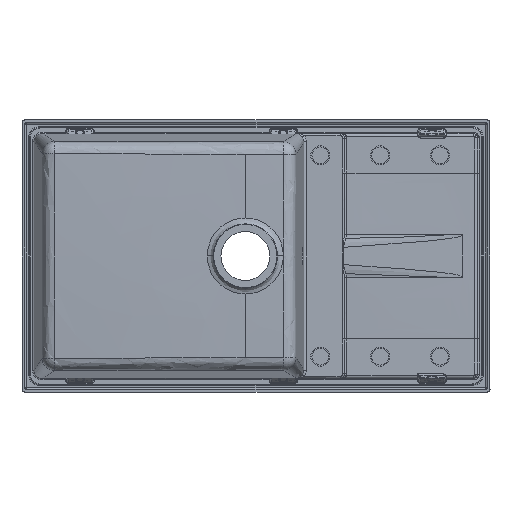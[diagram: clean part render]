
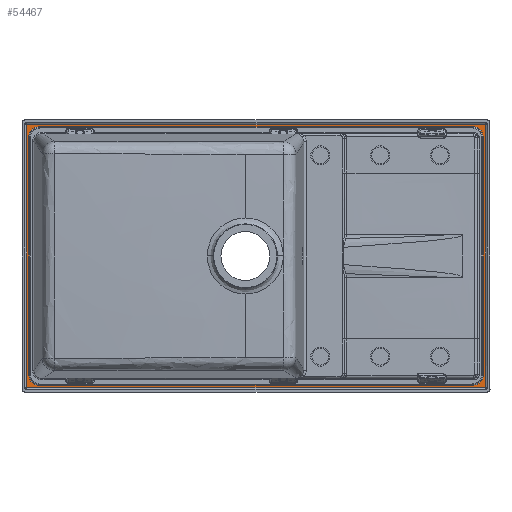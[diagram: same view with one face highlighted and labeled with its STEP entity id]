
A CAD part, front view. The second image highlights one B-rep face of the part: STEP entity #54467.
In plain terms, the highlighted planar face has unit normal (0, -1, 0).
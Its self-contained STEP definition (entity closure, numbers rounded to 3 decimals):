
#267 = CARTESIAN_POINT ( 'NONE',  ( -409.251, 2., -237.914 ) ) ;
#340 = DIRECTION ( 'NONE',  ( 0., 0., 1. ) ) ;
#1093 = CARTESIAN_POINT ( 'NONE',  ( 417.914, 2., -217. ) ) ;
#1613 = CARTESIAN_POINT ( 'NONE',  ( -397., 2., -237.914 ) ) ;
#2511 = CARTESIAN_POINT ( 'NONE',  ( 417.914, 2., 229.251 ) ) ;
#2756 = LINE ( 'NONE', #22755, #23954 ) ;
#4981 = DIRECTION ( 'NONE',  ( 0., 0., 1. ) ) ;
#5520 = CARTESIAN_POINT ( 'NONE',  ( 397., 2., 237.914 ) ) ;
#5532 =( BOUNDED_CURVE ( )  B_SPLINE_CURVE ( 3, ( #26998, #22529, #31859, #13226 ),
 .UNSPECIFIED., .F., .T. ) 
 B_SPLINE_CURVE_WITH_KNOTS ( ( 4, 4 ),
 ( 0., 1. ),
 .UNSPECIFIED. ) 
 CURVE ( )  GEOMETRIC_REPRESENTATION_ITEM ( )  RATIONAL_B_SPLINE_CURVE ( ( 0.979, 0.788, 0.788, 0.979 ) ) 
 REPRESENTATION_ITEM ( '' )  );
#6761 = EDGE_CURVE ( 'NONE', #8074, #12178, #2756, .T. ) ;
#6848 = EDGE_CURVE ( 'NONE', #46369, #54904, #5532, .T. ) ;
#7368 = CARTESIAN_POINT ( 'NONE',  ( 397., 2., 237.914 ) ) ;
#7384 = VERTEX_POINT ( 'NONE', #1093 ) ;
#7443 = VERTEX_POINT ( 'NONE', #5520 ) ;
#7706 = EDGE_CURVE ( 'NONE', #17551, #27716, #55713, .T. ) ;
#8074 = VERTEX_POINT ( 'NONE', #44522 ) ;
#8085 = EDGE_CURVE ( 'NONE', #7443, #46369, #14830, .T. ) ;
#8466 = CARTESIAN_POINT ( 'NONE',  ( -421.596, 2., -241.633 ) ) ;
#10685 = CARTESIAN_POINT ( 'NONE',  ( 417.914, 2., -241.633 ) ) ;
#11028 = EDGE_CURVE ( 'NONE', #19181, #7384, #46195, .T. ) ;
#11335 = DIRECTION ( 'NONE',  ( 1., 0., 0. ) ) ;
#12058 = CARTESIAN_POINT ( 'NONE',  ( -417.914, 2., -241.633 ) ) ;
#12178 = VERTEX_POINT ( 'NONE', #8466 ) ;
#12236 = ORIENTED_EDGE ( 'NONE', *, *, #40583, .T. ) ;
#12380 = CARTESIAN_POINT ( 'NONE',  ( -421.596, 2., -237.914 ) ) ;
#13226 = CARTESIAN_POINT ( 'NONE',  ( -417.914, 2., 217. ) ) ;
#14320 =( BOUNDED_CURVE ( )  B_SPLINE_CURVE ( 3, ( #19884, #30072, #267, #29452 ),
 .UNSPECIFIED., .F., .F. ) 
 B_SPLINE_CURVE_WITH_KNOTS ( ( 4, 4 ),
 ( 0., 1. ),
 .UNSPECIFIED. ) 
 CURVE ( )  GEOMETRIC_REPRESENTATION_ITEM ( )  RATIONAL_B_SPLINE_CURVE ( ( 0.979, 0.788, 0.788, 0.979 ) ) 
 REPRESENTATION_ITEM ( '' )  );
#14830 = LINE ( 'NONE', #55025, #20842 ) ;
#15121 = VECTOR ( 'NONE', #4981, 1000. ) ;
#16461 = LINE ( 'NONE', #12058, #59618 ) ;
#16981 = ORIENTED_EDGE ( 'NONE', *, *, #58912, .T. ) ;
#17316 = CARTESIAN_POINT ( 'NONE',  ( 417.914, 2., 217. ) ) ;
#17551 = VERTEX_POINT ( 'NONE', #20008 ) ;
#19174 = EDGE_CURVE ( 'NONE', #34823, #19181, #34158, .T. ) ;
#19181 = VERTEX_POINT ( 'NONE', #59340 ) ;
#19184 = FACE_BOUND ( 'NONE', #41952, .T. ) ;
#19857 =( BOUNDED_CURVE ( )  B_SPLINE_CURVE ( 3, ( #59816, #2511, #30869, #7368 ),
 .UNSPECIFIED., .F., .T. ) 
 B_SPLINE_CURVE_WITH_KNOTS ( ( 4, 4 ),
 ( 0., 1. ),
 .UNSPECIFIED. ) 
 CURVE ( )  GEOMETRIC_REPRESENTATION_ITEM ( )  RATIONAL_B_SPLINE_CURVE ( ( 0.979, 0.788, 0.788, 0.979 ) ) 
 REPRESENTATION_ITEM ( '' )  );
#19884 = CARTESIAN_POINT ( 'NONE',  ( -417.914, 2., -217. ) ) ;
#20008 = CARTESIAN_POINT ( 'NONE',  ( 421.596, 2., -241.633 ) ) ;
#20842 = VECTOR ( 'NONE', #54826, 1000. ) ;
#22529 = CARTESIAN_POINT ( 'NONE',  ( -409.251, 2., 237.914 ) ) ;
#22617 = ORIENTED_EDGE ( 'NONE', *, *, #44502, .F. ) ;
#22634 = CARTESIAN_POINT ( 'NONE',  ( 409.251, 2., -237.914 ) ) ;
#22755 = CARTESIAN_POINT ( 'NONE',  ( -421.596, 2., -245.904 ) ) ;
#23033 = ORIENTED_EDGE ( 'NONE', *, *, #7706, .T. ) ;
#23432 = ORIENTED_EDGE ( 'NONE', *, *, #6848, .F. ) ;
#23931 = EDGE_CURVE ( 'NONE', #33564, #34823, #14320, .T. ) ;
#23954 = VECTOR ( 'NONE', #55930, 1000. ) ;
#24213 = LINE ( 'NONE', #40841, #46896 ) ;
#24225 = PLANE ( 'NONE',  #62312 ) ;
#25501 = ORIENTED_EDGE ( 'NONE', *, *, #33006, .F. ) ;
#26998 = CARTESIAN_POINT ( 'NONE',  ( -397., 2., 237.914 ) ) ;
#27716 = VERTEX_POINT ( 'NONE', #43332 ) ;
#28333 = DIRECTION ( 'NONE',  ( 1., 0., 0. ) ) ;
#29452 = CARTESIAN_POINT ( 'NONE',  ( -397., 2., -237.914 ) ) ;
#30072 = CARTESIAN_POINT ( 'NONE',  ( -417.914, 2., -229.251 ) ) ;
#30869 = CARTESIAN_POINT ( 'NONE',  ( 409.251, 2., 237.914 ) ) ;
#31648 = VERTEX_POINT ( 'NONE', #17316 ) ;
#31667 = EDGE_LOOP ( 'NONE', ( #16981, #23033, #12236, #43078 ) ) ;
#31859 = CARTESIAN_POINT ( 'NONE',  ( -417.914, 2., 229.251 ) ) ;
#32075 = FACE_OUTER_BOUND ( 'NONE', #31667, .T. ) ;
#32378 = CARTESIAN_POINT ( 'NONE',  ( 397., 2., -237.914 ) ) ;
#33006 = EDGE_CURVE ( 'NONE', #31648, #7443, #19857, .T. ) ;
#33564 = VERTEX_POINT ( 'NONE', #52546 ) ;
#33738 = ORIENTED_EDGE ( 'NONE', *, *, #23931, .F. ) ;
#34158 = LINE ( 'NONE', #12380, #37932 ) ;
#34179 = ORIENTED_EDGE ( 'NONE', *, *, #19174, .F. ) ;
#34823 = VERTEX_POINT ( 'NONE', #1613 ) ;
#35673 = EDGE_CURVE ( 'NONE', #7384, #31648, #53703, .T. ) ;
#36402 = DIRECTION ( 'NONE',  ( 0., 0., -1. ) ) ;
#36689 = CARTESIAN_POINT ( 'NONE',  ( -417.914, 2., 217. ) ) ;
#36811 = VECTOR ( 'NONE', #46737, 1000. ) ;
#36814 = CARTESIAN_POINT ( 'NONE',  ( 417.914, 2., -217. ) ) ;
#37438 = CARTESIAN_POINT ( 'NONE',  ( 421.596, 2., -245.904 ) ) ;
#37932 = VECTOR ( 'NONE', #11335, 1000. ) ;
#40583 = EDGE_CURVE ( 'NONE', #27716, #8074, #24213, .T. ) ;
#40841 = CARTESIAN_POINT ( 'NONE',  ( -428.027, 2., 241.584 ) ) ;
#41469 = CARTESIAN_POINT ( 'NONE',  ( 417.914, 2., -229.251 ) ) ;
#41952 = EDGE_LOOP ( 'NONE', ( #23432, #60684, #25501, #43812, #48850, #34179, #33738, #22617 ) ) ;
#43078 = ORIENTED_EDGE ( 'NONE', *, *, #6761, .T. ) ;
#43332 = CARTESIAN_POINT ( 'NONE',  ( 421.596, 2., 241.584 ) ) ;
#43812 = ORIENTED_EDGE ( 'NONE', *, *, #35673, .F. ) ;
#44502 = EDGE_CURVE ( 'NONE', #54904, #33564, #16461, .T. ) ;
#44522 = CARTESIAN_POINT ( 'NONE',  ( -421.596, 2., 241.584 ) ) ;
#46195 =( BOUNDED_CURVE ( )  B_SPLINE_CURVE ( 3, ( #32378, #22634, #41469, #36814 ),
 .UNSPECIFIED., .F., .T. ) 
 B_SPLINE_CURVE_WITH_KNOTS ( ( 4, 4 ),
 ( 0., 1. ),
 .UNSPECIFIED. ) 
 CURVE ( )  GEOMETRIC_REPRESENTATION_ITEM ( )  RATIONAL_B_SPLINE_CURVE ( ( 0.979, 0.788, 0.788, 0.979 ) ) 
 REPRESENTATION_ITEM ( '' )  );
#46369 = VERTEX_POINT ( 'NONE', #62064 ) ;
#46737 = DIRECTION ( 'NONE',  ( 0., 0., 1. ) ) ;
#46896 = VECTOR ( 'NONE', #61120, 1000. ) ;
#48850 = ORIENTED_EDGE ( 'NONE', *, *, #11028, .F. ) ;
#52546 = CARTESIAN_POINT ( 'NONE',  ( -417.914, 2., -217. ) ) ;
#53579 = DIRECTION ( 'NONE',  ( 0., 1., 0. ) ) ;
#53703 = LINE ( 'NONE', #10685, #15121 ) ;
#54467 = ADVANCED_FACE ( 'NONE', ( #32075, #19184 ), #24225, .F. ) ;
#54826 = DIRECTION ( 'NONE',  ( -1., 0., 0. ) ) ;
#54904 = VERTEX_POINT ( 'NONE', #36689 ) ;
#55025 = CARTESIAN_POINT ( 'NONE',  ( -421.596, 2., 237.914 ) ) ;
#55713 = LINE ( 'NONE', #37438, #36811 ) ;
#55930 = DIRECTION ( 'NONE',  ( 0., 0., -1. ) ) ;
#57618 = VECTOR ( 'NONE', #28333, 1000. ) ;
#58028 = CARTESIAN_POINT ( 'NONE',  ( -421.596, 2., -241.633 ) ) ;
#58912 = EDGE_CURVE ( 'NONE', #12178, #17551, #59138, .T. ) ;
#59138 = LINE ( 'NONE', #59880, #57618 ) ;
#59340 = CARTESIAN_POINT ( 'NONE',  ( 397., 2., -237.914 ) ) ;
#59618 = VECTOR ( 'NONE', #36402, 1000. ) ;
#59816 = CARTESIAN_POINT ( 'NONE',  ( 417.914, 2., 217. ) ) ;
#59880 = CARTESIAN_POINT ( 'NONE',  ( -421.596, 2., -241.633 ) ) ;
#60684 = ORIENTED_EDGE ( 'NONE', *, *, #8085, .F. ) ;
#61120 = DIRECTION ( 'NONE',  ( -1., 0., 0. ) ) ;
#62064 = CARTESIAN_POINT ( 'NONE',  ( -397., 2., 237.914 ) ) ;
#62312 = AXIS2_PLACEMENT_3D ( 'NONE', #58028, #53579, #340 ) ;
